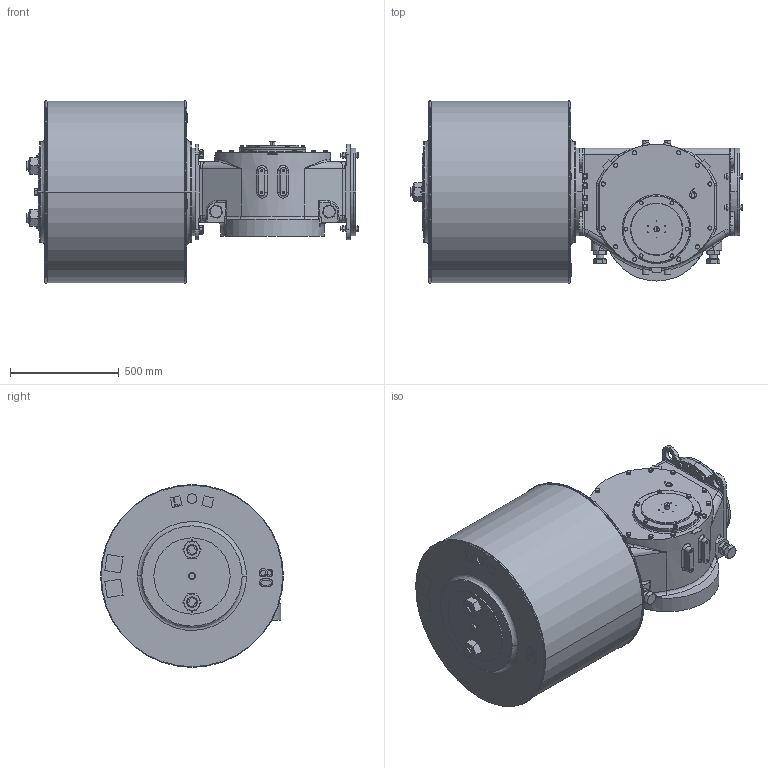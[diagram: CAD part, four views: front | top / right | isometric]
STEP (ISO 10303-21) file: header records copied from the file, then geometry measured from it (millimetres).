
FILE_DESCRIPTION (( 'STEP AP203' ), '1' );
FILE_NAME ('VTS6-800.STEP', '2023-01-01T10:02:32', ( '' ), ( '' ), 'SwSTEP 2.0', 'SolidWorks 2020', '' );
FILE_SCHEMA (( 'CONFIG_CONTROL_DESIGN' ));
Length unit declared in the file: millimetre
Products named in the file (1): VTS6-800
Bounding box: 1524.18 x 839 x 839 mm (x, y, z)
Volume: 479940966.2 mm3; surface area: 5486651.6 mm2
Topology: 3 solids, 6 shells, 1947 faces, 4975 edges, 3160 vertices
Faces by surface type: plane 811, cylinder 590, cone 453, bspline 93
Entity records: 73706 total; most frequent: CARTESIAN_POINT 27494, ORIENTED_EDGE 9846, DIRECTION 9460, EDGE_CURVE 4923, AXIS2_PLACEMENT_3D 3752, VERTEX_POINT 3160, EDGE_LOOP 2213, VECTOR 1956
